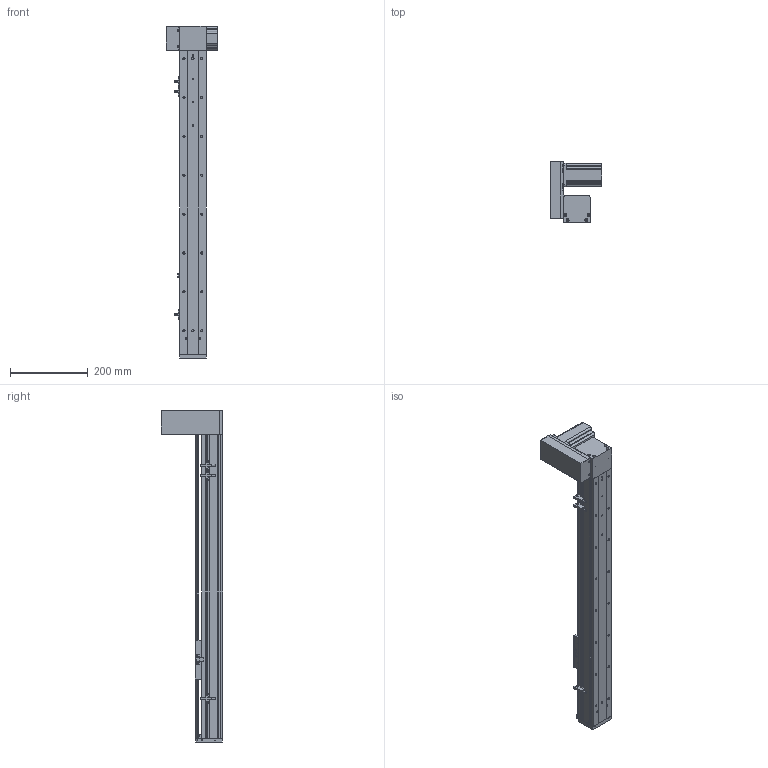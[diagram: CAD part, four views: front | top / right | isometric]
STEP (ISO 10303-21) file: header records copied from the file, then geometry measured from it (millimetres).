
FILE_DESCRIPTION (( 'STEP AP203' ), '1' );
FILE_NAME ('ML68-S600-UR.STEP', '2016-08-05T00:48:56', ( '' ), ( '' ), 'SwSTEP 2.0', 'SolidWorks 2014', '' );
FILE_SCHEMA (( 'CONFIG_CONTROL_DESIGN' ));
Length unit declared in the file: millimetre
Products named in the file (12): QS68左右折电机板罩子; ML68雄赽釱; 60換覜結え; ML68-BL傷啣; ML68-S600-UR; QS68酘衵殏萇儂啣; ML68傷啣; ML68滅鳥啣盓傅輸; 三协电机MH201N2_預設; 葩璃 ML68菁釱^ML68-S600-UR; 換覜ん; ML68奻裔^ML68-S600-UR
Assembly tree (13 placements, depth 2):
  ML68-S600-UR
    葩璃 ML68菁釱^ML68-S600-UR
    ML68奻裔^ML68-S600-UR
    ML68傷啣
    ML68-BL傷啣
    60換覜結え
    換覜ん  x3
    三协电机MH201N2_預設
    ML68雄赽釱
    QS68酘衵殏萇儂啣
    QS68左右折电机板罩子
    ML68滅鳥啣盓傅輸
Bounding box: 133.5 x 157 x 854 mm (x, y, z)
Volume: 1657193.9 mm3; surface area: 617394.8 mm2
Topology: 13 solids, 13 shells, 923 faces, 2526 edges, 1601 vertices
Faces by surface type: cylinder 422, plane 405, cone 96
Entity records: 29298 total; most frequent: CARTESIAN_POINT 5654, DIRECTION 4788, ORIENTED_EDGE 4552, EDGE_CURVE 2276, AXIS2_PLACEMENT_3D 1731, VERTEX_POINT 1489, VECTOR 1326, LINE 1326
